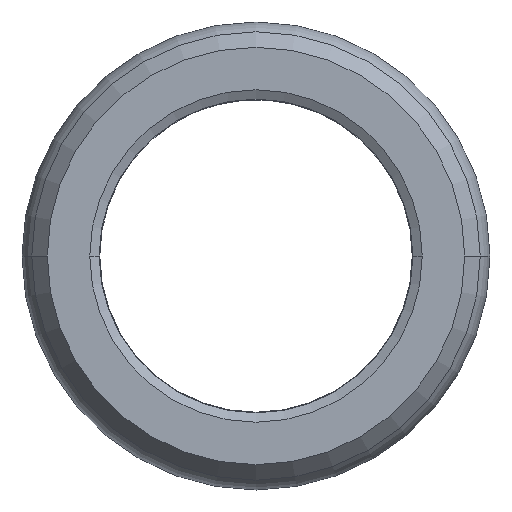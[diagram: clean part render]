
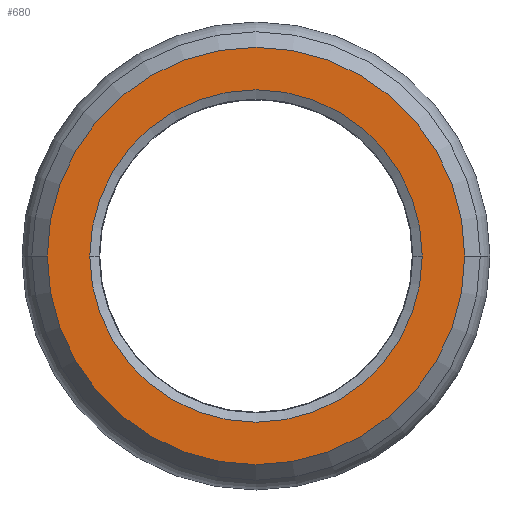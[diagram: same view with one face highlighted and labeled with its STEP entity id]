
A CAD part, front view. The second image highlights one B-rep face of the part: STEP entity #680.
In plain terms, the highlighted planar face has unit normal (0, -1, 0).
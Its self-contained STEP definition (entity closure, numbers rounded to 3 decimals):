
#100=CARTESIAN_POINT('',(447.42,13.005,
0.));
#110=VERTEX_POINT('',#100);
#290=CARTESIAN_POINT('',(480.82,13.005,0.));
#300=VERTEX_POINT('',#290);
#330=CARTESIAN_POINT('',(464.12,13.005,0.));
#340=DIRECTION('',(0.,1.,0.));
#350=DIRECTION('',(1.,0.,0.));
#360=AXIS2_PLACEMENT_3D('',#330,#340,#350);
#370=CIRCLE('',#360,16.7);
#380=EDGE_CURVE('',#110,#300,#370,.T.);
#430=CARTESIAN_POINT('',(479.12,13.005,0.));
#440=DIRECTION('',(-0.,1.,0.));
#450=DIRECTION('',(1.,0.,0.));
#460=AXIS2_PLACEMENT_3D('',#430,#440,#450);
#470=PLANE('',#460);
#480=CARTESIAN_POINT('',(464.12,13.005,0.));
#490=DIRECTION('',(0.,1.,0.));
#500=DIRECTION('',(1.,0.,0.));
#510=AXIS2_PLACEMENT_3D('',#480,#490,#500);
#520=CIRCLE('',#510,13.3);
#530=CARTESIAN_POINT('',(477.42,13.005,
0.));
#540=VERTEX_POINT('',#530);
#550=CARTESIAN_POINT('',(450.82,13.005,0.));
#560=VERTEX_POINT('',#550);
#570=EDGE_CURVE('',#540,#560,#520,.T.);
#580=ORIENTED_EDGE('',*,*,#570,.T.);
#590=EDGE_CURVE('',#560,#540,#520,.T.);
#600=ORIENTED_EDGE('',*,*,#590,.T.);
#610=EDGE_LOOP('',(#600,#580));
#620=FACE_BOUND('',#610,.T.);
#630=EDGE_CURVE('',#300,#110,#370,.T.);
#640=ORIENTED_EDGE('',*,*,#630,.F.);
#650=ORIENTED_EDGE('',*,*,#380,.F.);
#660=EDGE_LOOP('',(#650,#640));
#670=FACE_OUTER_BOUND('',#660,.T.);
#680=ADVANCED_FACE('',(#620,#670),#470,.F.);
